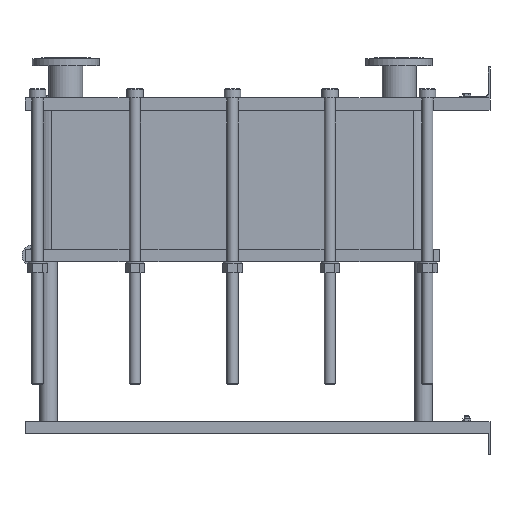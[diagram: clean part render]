
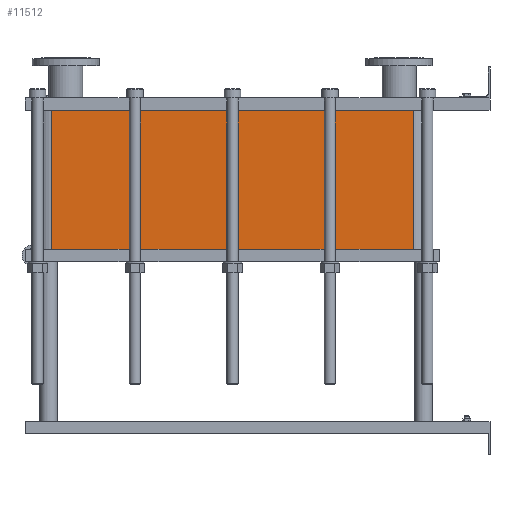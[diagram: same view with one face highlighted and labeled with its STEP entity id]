
A CAD part, left-side view. The second image highlights one B-rep face of the part: STEP entity #11512.
In plain terms, the highlighted planar face has unit normal (-1, 0, 0).
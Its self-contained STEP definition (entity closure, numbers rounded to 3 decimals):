
#1129=LINE('',#23232,#2102);
#1130=LINE('',#23236,#2103);
#1131=LINE('',#23238,#2104);
#1132=LINE('',#23239,#2105);
#2102=VECTOR('',#15887,10.);
#2103=VECTOR('',#15892,10.);
#2104=VECTOR('',#15893,10.);
#2105=VECTOR('',#15894,10.);
#3267=FACE_OUTER_BOUND('',#4093,.T.);
#4093=EDGE_LOOP('',(#10103,#10104,#10105,#10106));
#5642=VERTEX_POINT('',#23229);
#5643=VERTEX_POINT('',#23231);
#5644=VERTEX_POINT('',#23235);
#5645=VERTEX_POINT('',#23237);
#7159=EDGE_CURVE('',#5643,#5642,#1129,.T.);
#7161=EDGE_CURVE('',#5642,#5644,#1130,.T.);
#7162=EDGE_CURVE('',#5645,#5644,#1131,.T.);
#7163=EDGE_CURVE('',#5645,#5643,#1132,.T.);
#10103=ORIENTED_EDGE('',*,*,#7161,.T.);
#10104=ORIENTED_EDGE('',*,*,#7162,.F.);
#10105=ORIENTED_EDGE('',*,*,#7163,.T.);
#10106=ORIENTED_EDGE('',*,*,#7159,.T.);
#10857=PLANE('',#12751);
#11512=ADVANCED_FACE('',(#3267),#10857,.T.);
#12751=AXIS2_PLACEMENT_3D('',#23234,#15890,#15891);
#15887=DIRECTION('',(0.,0.,-1.));
#15890=DIRECTION('center_axis',(-1.,0.,0.));
#15891=DIRECTION('ref_axis',(0.,1.,0.));
#15892=DIRECTION('',(0.,-1.,0.));
#15893=DIRECTION('',(0.,0.,-1.));
#15894=DIRECTION('',(0.,1.,0.));
#23229=CARTESIAN_POINT('',(-200.,1414.,-448.5));
#23231=CARTESIAN_POINT('',(-200.,1414.,0.));
#23232=CARTESIAN_POINT('',(-200.,1414.,0.));
#23234=CARTESIAN_POINT('Origin',(-200.,248.,0.));
#23235=CARTESIAN_POINT('',(-200.,248.,-448.5));
#23236=CARTESIAN_POINT('',(-200.,539.5,-448.5));
#23237=CARTESIAN_POINT('',(-200.,248.,0.));
#23238=CARTESIAN_POINT('',(-200.,248.,0.));
#23239=CARTESIAN_POINT('',(-200.,248.,0.));
